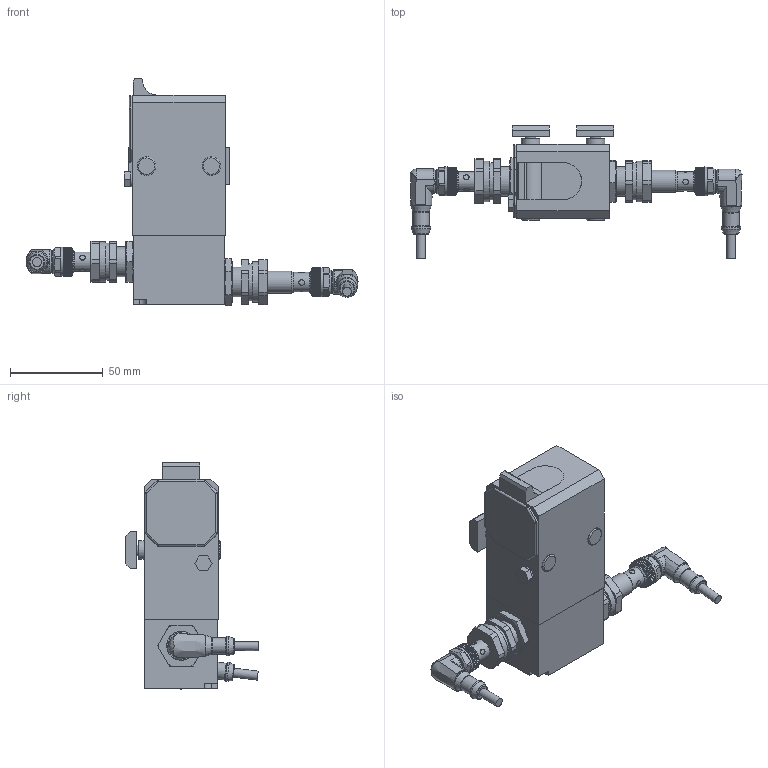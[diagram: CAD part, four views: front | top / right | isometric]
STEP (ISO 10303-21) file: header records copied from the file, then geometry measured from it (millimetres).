
FILE_DESCRIPTION(/* description */ (''),/* implementation_level */ '2;1');
FILE_NAME(/* name */ 'C:\Marketing\01_Versamove-SPU_STEP-Dateien-Homepage\Versamove plus\ASU-400_Induktiv.stp',/* time_stamp */ '2016-12-22T15:11:42+01:00',/* author */ ('herbert.engels'),/* organization */ (''),/* preprocessor_version */ 'ST-DEVELOPER v15.6',/* originating_system */ 'Autodesk Inventor 2015',/* authorisation */ '');
FILE_SCHEMA (('CONFIG_CONTROL_DESIGN'));
Length unit declared in the file: millimetre
Products named in the file (1): ASU-400_Induktiv
Bounding box: 179.24 x 71.6 x 122.69 mm (x, y, z)
Volume: 259161.8 mm3; surface area: 43043.1 mm2
Topology: 1 solids, 1 shells, 567 faces, 1521 edges, 1001 vertices
Faces by surface type: plane 404, cylinder 98, cone 41, torus 12, sphere 8, bspline 4
Full cylindrical faces by diameter (mm): 3 x8, 4.9 x2, 6 x2, 7.8 x1, 9 x2, 9.8 x2, 10 x4, 10.4 x2, 10.5 x2, 12 x3, 15.55 x2, 16 x2, 20 x3, 21.9 x2
Entity records: 18608 total; most frequent: CARTESIAN_POINT 4688, ORIENTED_EDGE 2872, DIRECTION 2462, EDGE_CURVE 1436, VERTEX_POINT 984, LINE 842, VECTOR 842, AXIS2_PLACEMENT_3D 810
